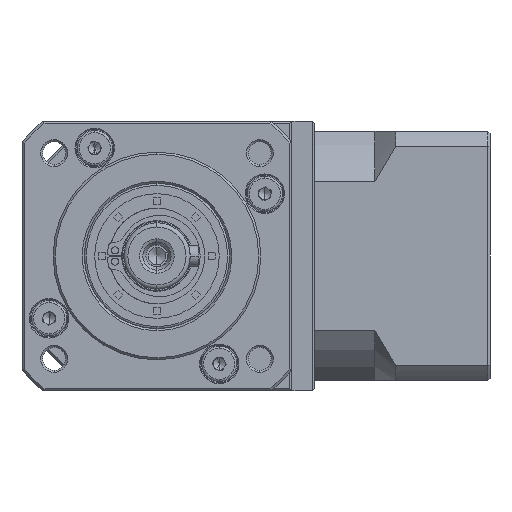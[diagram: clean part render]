
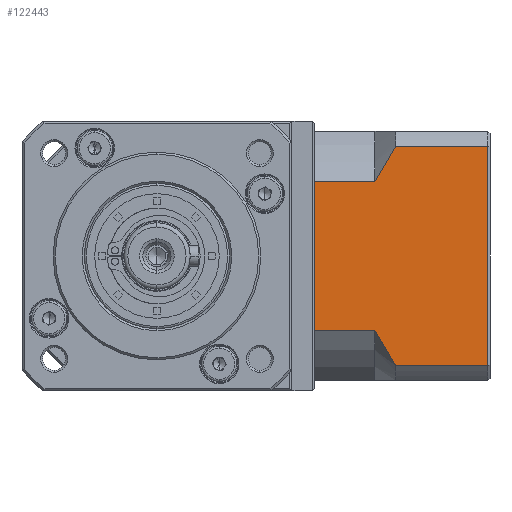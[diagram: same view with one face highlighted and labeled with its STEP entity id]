
A CAD part, left-side view. The second image highlights one B-rep face of the part: STEP entity #122443.
In plain terms, the highlighted planar face has unit normal (-1, 0, 0).
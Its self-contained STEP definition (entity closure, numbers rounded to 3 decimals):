
#551 = EDGE_CURVE ( 'NONE', #114137, #63029, #98356, .T. ) ;
#1005 = VECTOR ( 'NONE', #35875, 1000. ) ;
#2399 = VERTEX_POINT ( 'NONE', #40099 ) ;
#2497 = B_SPLINE_CURVE_WITH_KNOTS ( 'NONE', 3,
 ( #105908, #93256, #118668, #42760, #131465, #55429 ),
 .UNSPECIFIED., .F., .F.,
 ( 4, 2, 4 ),
 ( 0.1, 0.104, 0.109 ),
 .UNSPECIFIED. ) ;
#2883 = LINE ( 'NONE', #137265, #62541 ) ;
#3631 = ORIENTED_EDGE ( 'NONE', *, *, #65309, .T. ) ;
#5169 = CARTESIAN_POINT ( 'NONE',  ( 16.666, -11.042, 130.728 ) ) ;
#7889 = VERTEX_POINT ( 'NONE', #15048 ) ;
#11406 = ORIENTED_EDGE ( 'NONE', *, *, #92850, .T. ) ;
#12640 = CARTESIAN_POINT ( 'NONE',  ( 16.666, -11.042, 94.672 ) ) ;
#13148 = PLANE ( 'NONE',  #26945 ) ;
#15048 = CARTESIAN_POINT ( 'NONE',  ( 16.666, -38.242, 139.158 ) ) ;
#15728 = VECTOR ( 'NONE', #69824, 1000. ) ;
#17827 = EDGE_CURVE ( 'NONE', #96022, #7889, #2883, .T. ) ;
#26945 = AXIS2_PLACEMENT_3D ( 'NONE', #39234, #127972, #51976 ) ;
#29631 = CARTESIAN_POINT ( 'NONE',  ( 16.666, -38.242, 82.7 ) ) ;
#32916 = VECTOR ( 'NONE', #131490, 1000. ) ;
#35875 = DIRECTION ( 'NONE',  ( 0., 1., 0. ) ) ;
#39234 = CARTESIAN_POINT ( 'NONE',  ( 16.666, -38.742, 82.7 ) ) ;
#40099 = CARTESIAN_POINT ( 'NONE',  ( 16.666, 3.458, 130.728 ) ) ;
#41853 = DIRECTION ( 'NONE',  ( 0., 0., 1. ) ) ;
#42580 = ORIENTED_EDGE ( 'NONE', *, *, #92887, .T. ) ;
#42760 = CARTESIAN_POINT ( 'NONE',  ( 16.666, -14.267, 88.985 ) ) ;
#48551 = DIRECTION ( 'NONE',  ( 0., -1., 0. ) ) ;
#49056 = ORIENTED_EDGE ( 'NONE', *, *, #157209, .F. ) ;
#49914 = EDGE_LOOP ( 'NONE', ( #72628, #11406, #112235, #42580, #49056, #3631, #80314, #84949 ) ) ;
#51976 = DIRECTION ( 'NONE',  ( 0., 1., 0. ) ) ;
#55429 = CARTESIAN_POINT ( 'NONE',  ( 16.666, -16.042, 86.242 ) ) ;
#57602 = LINE ( 'NONE', #156629, #87373 ) ;
#58357 = VERTEX_POINT ( 'NONE', #102736 ) ;
#59434 = EDGE_CURVE ( 'NONE', #74949, #88102, #57602, .T. ) ;
#62541 = VECTOR ( 'NONE', #48551, 1000. ) ;
#62932 = CARTESIAN_POINT ( 'NONE',  ( 16.666, 3.458, 82.7 ) ) ;
#63029 = VERTEX_POINT ( 'NONE', #147645 ) ;
#65309 = EDGE_CURVE ( 'NONE', #2399, #88102, #79341, .T. ) ;
#68453 = CARTESIAN_POINT ( 'NONE',  ( 16.666, -14.27, 136.419 ) ) ;
#69824 = DIRECTION ( 'NONE',  ( 0., 0., -1. ) ) ;
#72628 = ORIENTED_EDGE ( 'NONE', *, *, #551, .F. ) ;
#74949 = VERTEX_POINT ( 'NONE', #12640 ) ;
#77773 = LINE ( 'NONE', #29631, #145344 ) ;
#79341 = LINE ( 'NONE', #62932, #15728 ) ;
#80314 = ORIENTED_EDGE ( 'NONE', *, *, #59434, .F. ) ;
#81262 = CARTESIAN_POINT ( 'NONE',  ( 16.666, -11.79, 132.18 ) ) ;
#82920 = CARTESIAN_POINT ( 'NONE',  ( 16.666, -38.242, 86.242 ) ) ;
#84075 = CARTESIAN_POINT ( 'NONE',  ( 16.666, -16.042, 139.158 ) ) ;
#84949 = ORIENTED_EDGE ( 'NONE', *, *, #106798, .T. ) ;
#87373 = VECTOR ( 'NONE', #93444, 1000. ) ;
#88102 = VERTEX_POINT ( 'NONE', #146548 ) ;
#92850 = EDGE_CURVE ( 'NONE', #114137, #7889, #77773, .T. ) ;
#92887 = EDGE_CURVE ( 'NONE', #96022, #58357, #155993, .T. ) ;
#93256 = CARTESIAN_POINT ( 'NONE',  ( 16.666, -11.793, 93.216 ) ) ;
#93444 = DIRECTION ( 'NONE',  ( 0., 1., 0. ) ) ;
#96022 = VERTEX_POINT ( 'NONE', #84075 ) ;
#98356 = LINE ( 'NONE', #111926, #1005 ) ;
#102736 = CARTESIAN_POINT ( 'NONE',  ( 16.666, -11.042, 130.728 ) ) ;
#105908 = CARTESIAN_POINT ( 'NONE',  ( 16.666, -11.042, 94.672 ) ) ;
#106160 = CARTESIAN_POINT ( 'NONE',  ( 16.666, -15.143, 137.798 ) ) ;
#106798 = EDGE_CURVE ( 'NONE', #74949, #63029, #2497, .T. ) ;
#111926 = CARTESIAN_POINT ( 'NONE',  ( 16.666, -11.042, 86.242 ) ) ;
#112235 = ORIENTED_EDGE ( 'NONE', *, *, #17827, .F. ) ;
#114137 = VERTEX_POINT ( 'NONE', #82920 ) ;
#118668 = CARTESIAN_POINT ( 'NONE',  ( 16.666, -12.593, 91.79 ) ) ;
#118916 = CARTESIAN_POINT ( 'NONE',  ( 16.666, -16.042, 139.158 ) ) ;
#119236 = CARTESIAN_POINT ( 'NONE',  ( 16.666, -11.042, 130.728 ) ) ;
#122443 = ADVANCED_FACE ( 'NONE', ( #134445 ), #13148, .F. ) ;
#127972 = DIRECTION ( 'NONE',  ( 1., 0., 0. ) ) ;
#131465 = CARTESIAN_POINT ( 'NONE',  ( 16.666, -15.141, 87.605 ) ) ;
#131490 = DIRECTION ( 'NONE',  ( 0., -1., 0. ) ) ;
#134172 = LINE ( 'NONE', #119236, #32916 ) ;
#134445 = FACE_OUTER_BOUND ( 'NONE', #49914, .T. ) ;
#137265 = CARTESIAN_POINT ( 'NONE',  ( 16.666, -11.042, 139.158 ) ) ;
#145344 = VECTOR ( 'NONE', #41853, 1000. ) ;
#146548 = CARTESIAN_POINT ( 'NONE',  ( 16.666, 3.458, 94.672 ) ) ;
#147645 = CARTESIAN_POINT ( 'NONE',  ( 16.666, -16.042, 86.242 ) ) ;
#155993 = B_SPLINE_CURVE_WITH_KNOTS ( 'NONE', 3,
 ( #118916, #106160, #68453, #157242, #81262, #5169 ),
 .UNSPECIFIED., .F., .F.,
 ( 4, 2, 4 ),
 ( 0.052, 0.057, 0.062 ),
 .UNSPECIFIED. ) ;
#156629 = CARTESIAN_POINT ( 'NONE',  ( 16.666, -11.042, 94.672 ) ) ;
#157209 = EDGE_CURVE ( 'NONE', #2399, #58357, #134172, .T. ) ;
#157242 = CARTESIAN_POINT ( 'NONE',  ( 16.666, -12.594, 133.611 ) ) ;
